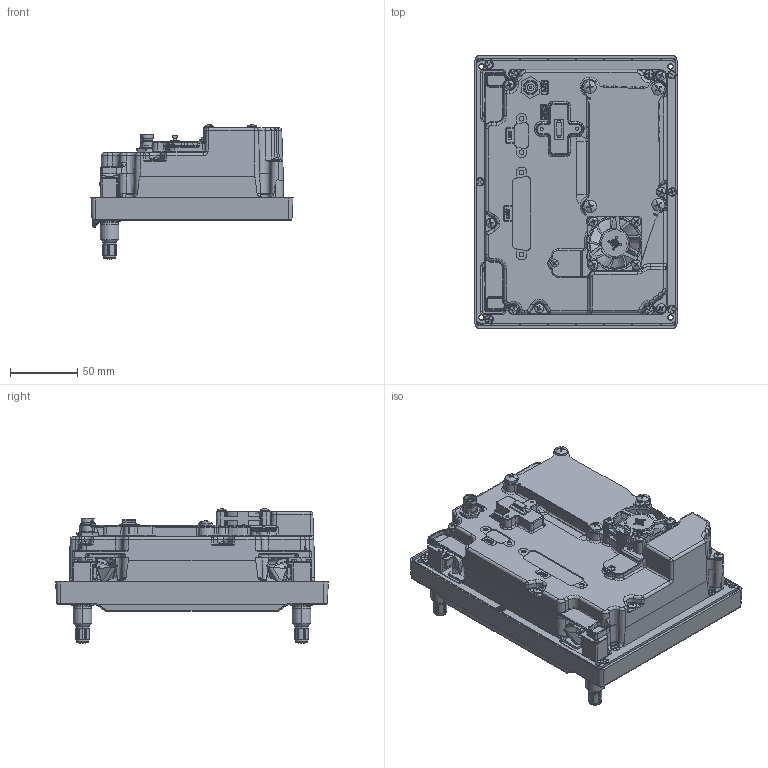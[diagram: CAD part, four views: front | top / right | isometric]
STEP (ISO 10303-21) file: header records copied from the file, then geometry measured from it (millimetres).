
FILE_DESCRIPTION (( 'STEP AP203' ), '1' );
FILE_NAME ('GDU80L_011-05800-(1X)_UO_rev2.STEP', '2026-06-03T20:43:45', ( '' ), ( '' ), 'SwSTEP 2.0', 'SolidWorks 2023', '' );
FILE_SCHEMA (( 'CONFIG_CONTROL_DESIGN' ));
Length unit declared in the file: inch
Products named in the file (1): GDU80L_011-05800-(1X)_UO_rev2
Bounding box: 150.52 x 203.13 x 100.25 mm (x, y, z)
Volume: 1359469.4 mm3; surface area: 152470.2 mm2
Topology: 1 solids, 26 shells, 4924 faces, 12463 edges, 7686 vertices
Faces by surface type: plane 1768, cylinder 1196, bspline 946, torus 466, cone 405, sphere 143
Entity records: 178898 total; most frequent: CARTESIAN_POINT 66890, ORIENTED_EDGE 24836, DIRECTION 22051, EDGE_CURVE 12418, AXIS2_PLACEMENT_3D 8380, VERTEX_POINT 7678, VECTOR 5291, LINE 5291
